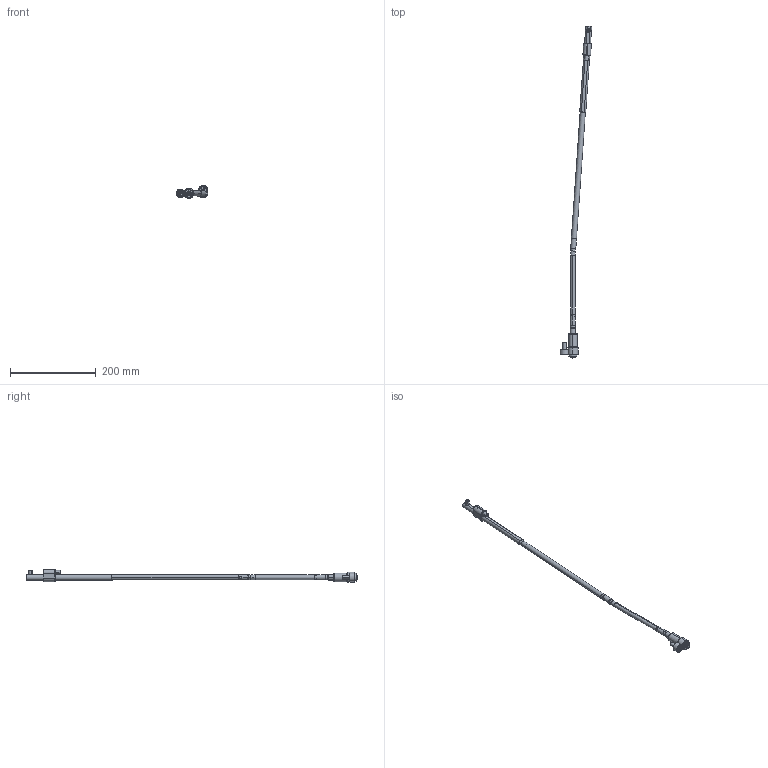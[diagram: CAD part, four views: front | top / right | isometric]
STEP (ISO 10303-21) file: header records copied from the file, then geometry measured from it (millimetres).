
FILE_DESCRIPTION (( 'STEP AP214' ), '1' );
FILE_NAME ('WL120125-INJ 4°.STEP', '2021-03-19T15:40:18', ( '' ), ( '' ), 'SwSTEP 2.0', 'SolidWorks 2019', '' );
FILE_SCHEMA (( 'AUTOMOTIVE_DESIGN' ));
Length unit declared in the file: millimetre
Products named in the file (17): WL120100-D; Web-WL12-A2; Web-WL12-A3; WL120100-B; Web-WL12-A8; 8WL12EJEP; WL120100-E; WL120125-INJ 4°; Web-WL12-A1; 1DIN912820_DIN 912 M8 x 20 --- 20C; Web-WL12-F01; 9DR2808-TOR; 3IMAN5X3-150_con sellador; 1DIN912645_DIN 912 M6 x 45 --- 45C; WL120100-B1; Web-WL12-XX_OFF-WL120125-4; Web-WL12-F00.SLDPRT
Assembly tree (16 placements, depth 3):
  WL120125-INJ 4°
    Web-WL12-A8
    Web-WL12-XX_OFF-WL120125-4
    Web-WL12-A3
    Web-WL12-A2
    Web-WL12-A1
    Web-WL12-F00.SLDPRT
      Web-WL12-F01
      1DIN912820_DIN 912 M8 x 20 --- 20C
      1DIN912645_DIN 912 M6 x 45 --- 45C
    WL120100-D
    8WL12EJEP
    WL120100-E
    9DR2808-TOR
    WL120100-B
      WL120100-B1
      3IMAN5X3-150_con sellador
Bounding box: 73.26 x 772.18 x 29.9 mm (x, y, z)
Volume: 116548.3 mm3; surface area: 51030 mm2
Topology: 15 solids, 15 shells, 432 faces, 906 edges, 525 vertices
Faces by surface type: plane 139, cylinder 123, cone 120, torus 50
Entity records: 13661 total; most frequent: DIRECTION 2240, CARTESIAN_POINT 2104, ORIENTED_EDGE 1788, AXIS2_PLACEMENT_3D 929, EDGE_CURVE 894, VERTEX_POINT 525, EDGE_LOOP 477, CIRCLE 476
